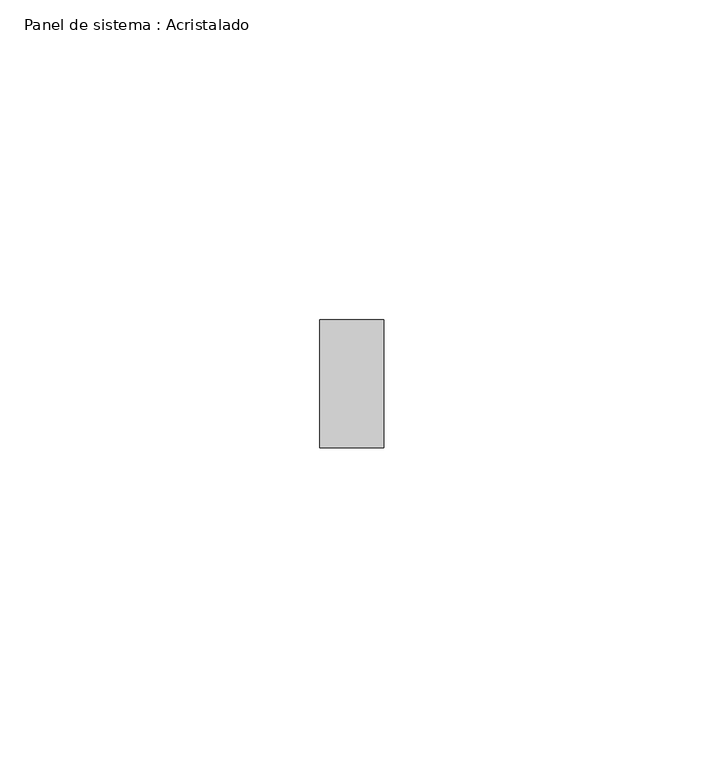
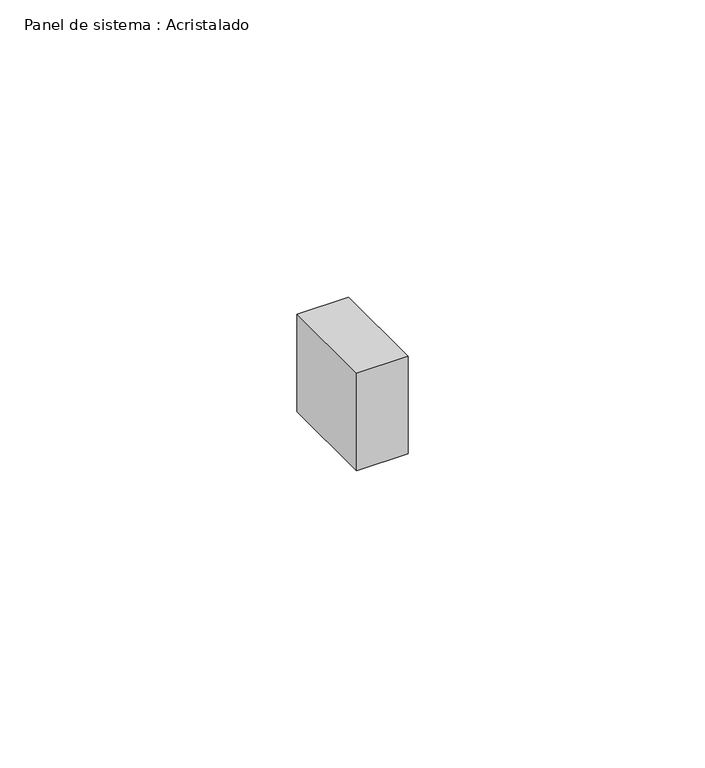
"""IFC4 building model written with IfcOpenShell, lengths in millimetres: plate geometry, Panel de sistema : Acristalado."""

from ifc_helpers import new_model, si_unit, origin, origin_with_axes, place, context, project, spatial, polyline, outline, extrude, source, transform, mapped, element, save


def panel_de_sistema_acristalado_241360f7(model_context):
    return source(origin(), model_context, "Body", "SweptSolid", [
        extrude(outline(polyline([(5.0, -10.0), (-5.0, -10.0), (-5.0, 10.0), (5.0, 10.0), (5.0, -10.0)])), origin_with_axes(), (0.0, 0.0, 1.0), 20.0),
    ])


if __name__ == "__main__":
    model = new_model("IFC4")
    model_context = context("Model", 3, world=origin())
    ifc_project = project(units=[si_unit("LENGTHUNIT", "METRE", prefix="MILLI")], contexts=[model_context])
    site = spatial("IfcSite", under=ifc_project)
    building = spatial("IfcBuilding", under=site)
    placement = place(None, origin())
    panel_de_sistema_acristalado_shape = panel_de_sistema_acristalado_241360f7(model_context)
    element("IfcPlate", 1, ObjectType="Panel de sistema : Acristalado", at=placement, inside=building, context=model_context, shape_type="MappedRepresentation", body=[
        mapped(panel_de_sistema_acristalado_shape, transform((0.0, 0.0, 0.0), x_axis=(1.0, 0.0, 0.0), y_axis=(0.0, 1.0, 0.0), z_axis=(0.0, 0.0, 1.0))),
    ])
    save(model, "model.ifc")
